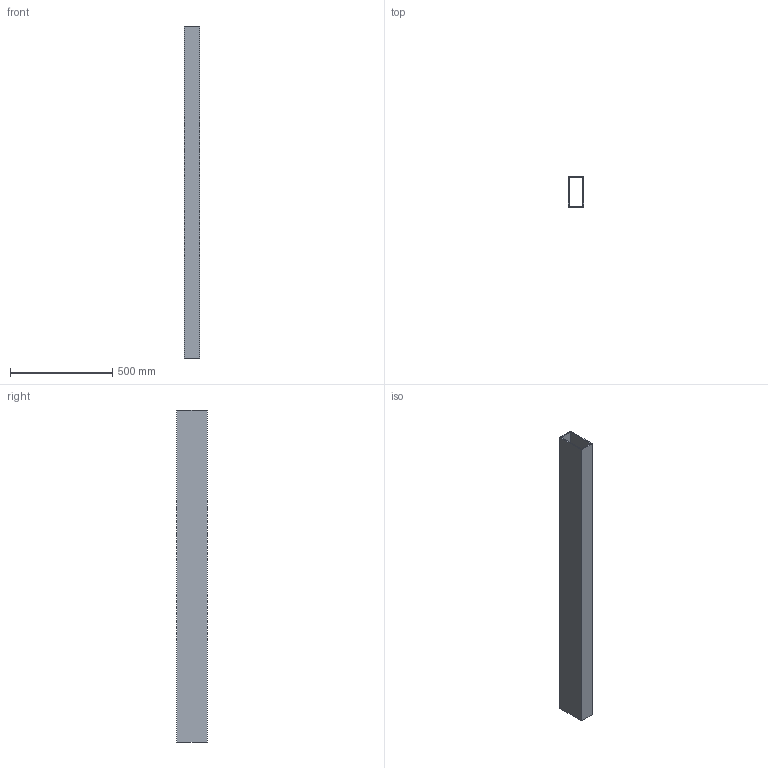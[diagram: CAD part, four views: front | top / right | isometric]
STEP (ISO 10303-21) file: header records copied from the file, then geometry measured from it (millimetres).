
FILE_DESCRIPTION(('Open CASCADE Model'),'2;1');
FILE_NAME('Open CASCADE Shape Model','2026-10-19T10:09:27',('Author'),( 'Open CASCADE'),'Open CASCADE STEP processor 8.0','Open CASCADE 8.0' ,'Unknown');
FILE_SCHEMA(('AUTOMOTIVE_DESIGN { 1 0 10303 214 1 1 1 1 }'));
Length unit declared in the file: millimetre
Products named in the file (1): AC_RHS150x75x5_L1620000 168
Bounding box: 75 x 150 x 1620 mm (x, y, z)
Volume: 3483000 mm3; surface area: 1397500 mm2
Topology: 1 solids, 1 shells, 10 faces, 24 edges, 16 vertices
Faces by surface type: plane 10
Entity records: 614 total; most frequent: CARTESIAN_POINT 99, DIRECTION 94, LINE 72, VECTOR 72, ORIENTED_EDGE 48, PCURVE 48, DEFINITIONAL_REPRESENTATION 48, EDGE_CURVE 24
